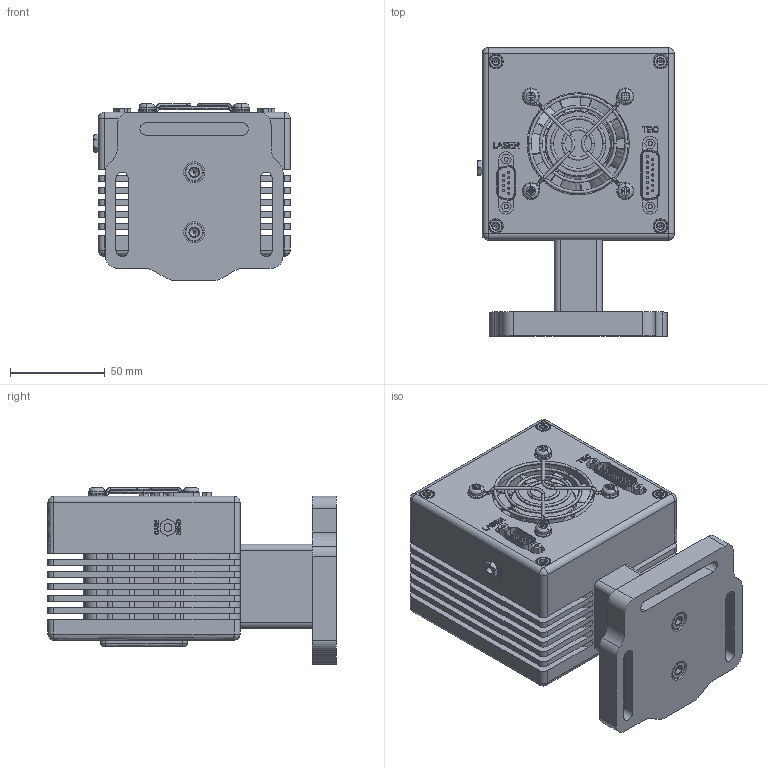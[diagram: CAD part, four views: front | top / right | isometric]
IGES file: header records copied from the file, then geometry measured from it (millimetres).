
Start section: SolidWorks IGES file using analytic representation for surfaces
Global section: file name: C:\Dropbox\Mechanical Engr\Development Projects (P)\244, 246 LaserMount (HHL, TO-3)\Customer Model Development\Step 2 - 246-LaserMount TLA.IGS; native system: SolidWorks 2014; preprocessor: SolidWorks 2014; author: mhanson; date: 150605.153007; units: inch
Bounding box: 103.89 x 152.4 x 93.45 mm (x, y, z)
Volume: 781244.6 mm3; surface area: 160933.6 mm2
Topology: 3 solids, 3 shells, 2847 faces, 7495 edges, 4867 vertices
Faces by surface type: plane 1427, revolution 795, bspline 625
